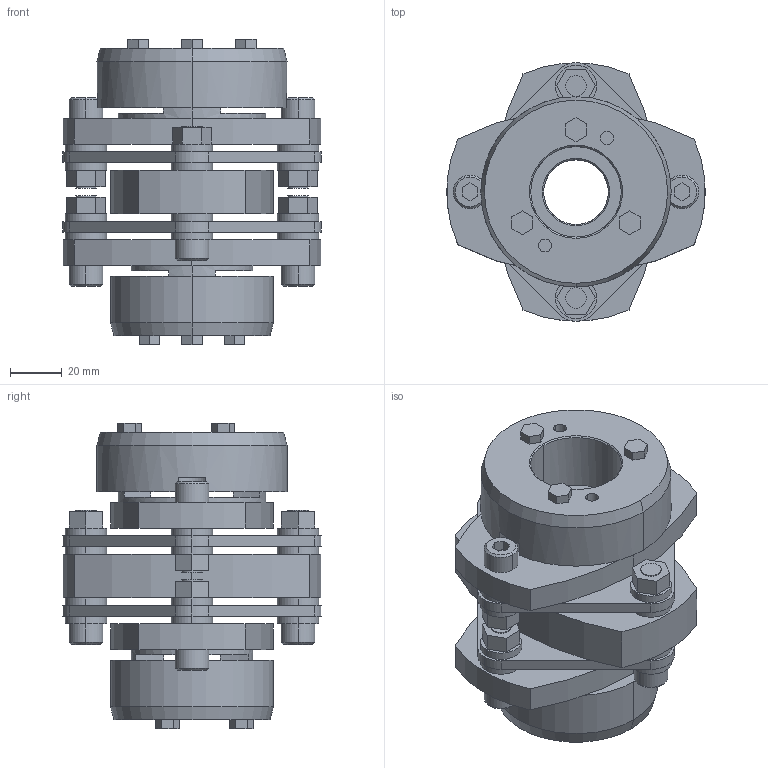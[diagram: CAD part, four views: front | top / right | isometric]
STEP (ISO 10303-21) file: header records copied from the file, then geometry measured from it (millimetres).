
FILE_DESCRIPTION((''),'2;1');
FILE_NAME('LCD-100T7-25×35.stp','2011-09-09T08:46:51',(''),(''),'AutoCAD STEP 2000i','AutoCAD 2000i',', , ');
FILE_SCHEMA(('CONFIG_CONTROL_DESIGN'));
Length unit declared in the file: millimetre
Products named in the file (9): LCD-100T7-25×35; 忣兜1; LC100T7-T035; LC100T7-T030; LC100T7-T025-1; LC100T7-T025; LC100T7-T022-1; LC100T7-T022; LCD100-ITA
Assembly tree (8 placements, depth 2):
  LCD-100T7-25×35
    忣兜1
    LC100T7-T035
    LC100T7-T030
    LC100T7-T025-1
    LC100T7-T025
    LC100T7-T022-1
    LC100T7-T022
    LCD100-ITA
Bounding box: 100 x 99.93 x 118 mm (x, y, z)
Volume: 358644 mm3; surface area: 91198.7 mm2
Topology: 1 solids, 1 shells, 324 faces, 792 edges, 520 vertices
Faces by surface type: plane 178, cylinder 122, cone 24
Entity records: 9831 total; most frequent: DIRECTION 1746, CARTESIAN_POINT 1645, ORIENTED_EDGE 1584, EDGE_CURVE 792, AXIS2_PLACEMENT_3D 621, VERTEX_POINT 520, VECTOR 504, LINE 504
